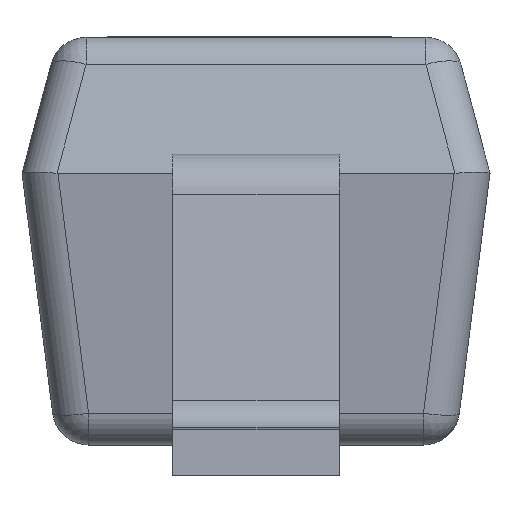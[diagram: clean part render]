
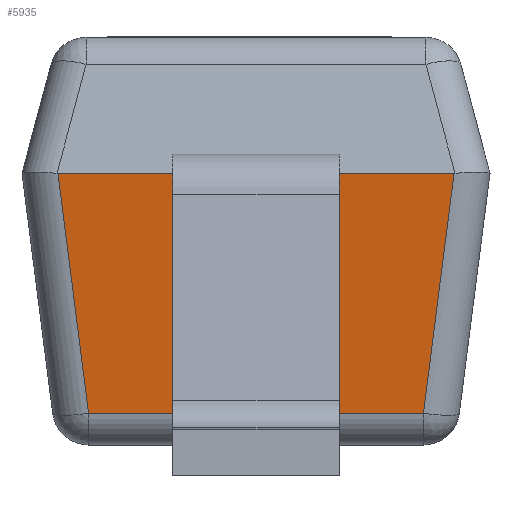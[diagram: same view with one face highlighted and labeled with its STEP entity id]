
A CAD part, left-side view. The second image highlights one B-rep face of the part: STEP entity #5935.
In plain terms, the highlighted planar face has unit normal (-0.992, 0, -0.127).
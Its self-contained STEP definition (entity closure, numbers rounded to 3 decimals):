
#486=PLANE('',#6353);
#685=LINE('',#7795,#1257);
#710=LINE('',#7885,#1282);
#711=LINE('',#7889,#1283);
#716=LINE('',#7898,#1288);
#1257=VECTOR('',#6630,0.808);
#1282=VECTOR('',#6731,0.808);
#1283=VECTOR('',#6738,1.109);
#1288=VECTOR('',#6751,1.312);
#1885=FACE_OUTER_BOUND('',#2241,.T.);
#2241=EDGE_LOOP('',(#4233,#4234,#4235,#4236));
#2627=VERTEX_POINT('',#7760);
#2634=VERTEX_POINT('',#7778);
#2639=VERTEX_POINT('',#7794);
#2666=VERTEX_POINT('',#7884);
#3231=EDGE_CURVE('',#2639,#2634,#685,.T.);
#3278=EDGE_CURVE('',#2627,#2666,#710,.T.);
#3281=EDGE_CURVE('',#2634,#2627,#711,.T.);
#3286=EDGE_CURVE('',#2666,#2639,#716,.T.);
#4233=ORIENTED_EDGE('',*,*,#3231,.F.);
#4234=ORIENTED_EDGE('',*,*,#3286,.F.);
#4235=ORIENTED_EDGE('',*,*,#3278,.F.);
#4236=ORIENTED_EDGE('',*,*,#3281,.F.);
#5935=ADVANCED_FACE('',(#1885),#486,.T.);
#6353=AXIS2_PLACEMENT_3D('',#7901,#6756,#6757);
#6630=DIRECTION('',(0.126,0.126,-0.984));
#6731=DIRECTION('',(-0.126,0.126,0.984));
#6738=DIRECTION('',(0.,1.,0.));
#6751=DIRECTION('',(0.,-1.,0.));
#6756=DIRECTION('center_axis',(-0.992,0.,-0.127));
#6757=DIRECTION('ref_axis',(-0.127,0.,0.992));
#7760=CARTESIAN_POINT('',(-1.248,0.554,0.105));
#7778=CARTESIAN_POINT('',(-1.248,-0.554,0.105));
#7794=CARTESIAN_POINT('',(-1.35,-0.656,0.9));
#7795=CARTESIAN_POINT('',(-1.281,-0.587,0.358));
#7884=CARTESIAN_POINT('',(-1.35,0.656,0.9));
#7885=CARTESIAN_POINT('',(-1.276,0.582,0.323));
#7889=CARTESIAN_POINT('',(-1.248,0.194,0.105));
#7898=CARTESIAN_POINT('',(-1.35,0.388,0.9));
#7901=CARTESIAN_POINT('Origin',(-1.293,0.388,0.45));
